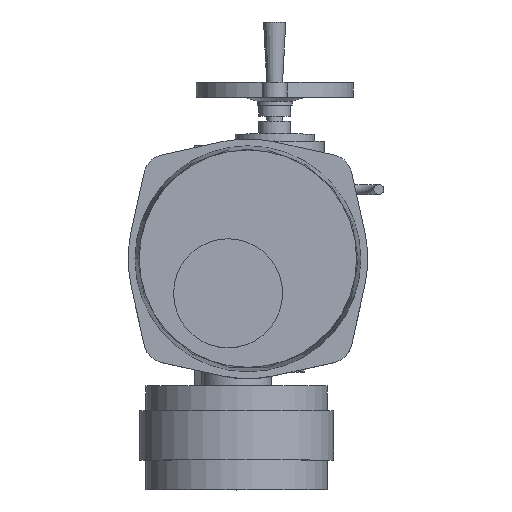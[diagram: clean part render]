
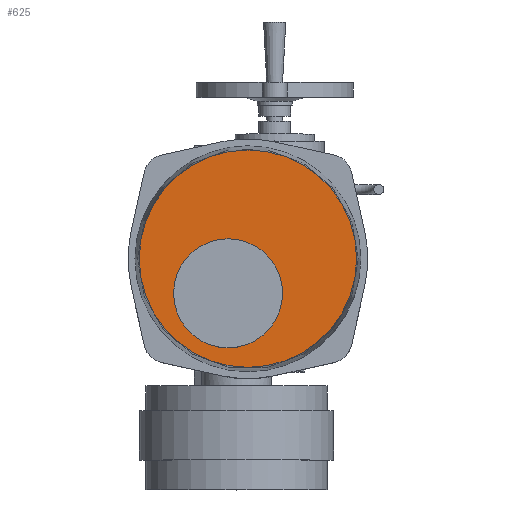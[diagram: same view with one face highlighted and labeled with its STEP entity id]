
A CAD part, top view. The second image highlights one B-rep face of the part: STEP entity #625.
In plain terms, the highlighted planar face has unit normal (0, 0, 1).
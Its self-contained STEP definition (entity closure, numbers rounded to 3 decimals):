
#625=ADVANCED_FACE('',(#8503,#8505),#8507,.T.);
#8503=FACE_BOUND('',#8504,.T.);
#8504=EDGE_LOOP('',(#14639));
#8505=FACE_BOUND('',#8506,.T.);
#8506=EDGE_LOOP('',(#14640));
#8507=PLANE('',#8508);
#8508=AXIS2_PLACEMENT_3D('',#8509,#8510,#8511);
#8509=CARTESIAN_POINT('',(20.,38.,554.));
#8510=DIRECTION('',(0.,0.,1.));
#8511=DIRECTION('',(-1.,0.,0.));
#14639=ORIENTED_EDGE('',*,*,#19476,.T.);
#14640=ORIENTED_EDGE('',*,*,#19479,.F.);
#19476=EDGE_CURVE('',#22090,#22090,#22091,.T.);
#19479=EDGE_CURVE('',#22096,#22096,#22097,.T.);
#22090=VERTEX_POINT('',#27329);
#22091=CIRCLE('',#27330,109.703);
#22096=VERTEX_POINT('',#27344);
#22097=CIRCLE('',#27345,55.);
#27329=CARTESIAN_POINT('',(-89.703,38.,554.));
#27330=AXIS2_PLACEMENT_3D('',#27331,#27332,#27333);
#27331=CARTESIAN_POINT('',(20.,38.,554.));
#27332=DIRECTION('',(0.,0.,1.));
#27333=DIRECTION('',(-1.,0.,0.));
#27344=CARTESIAN_POINT('',(-55.,3.,554.));
#27345=AXIS2_PLACEMENT_3D('',#27346,#27347,#27348);
#27346=CARTESIAN_POINT('',(0.,3.,554.));
#27347=DIRECTION('',(0.,0.,1.));
#27348=DIRECTION('',(-1.,0.,0.));
